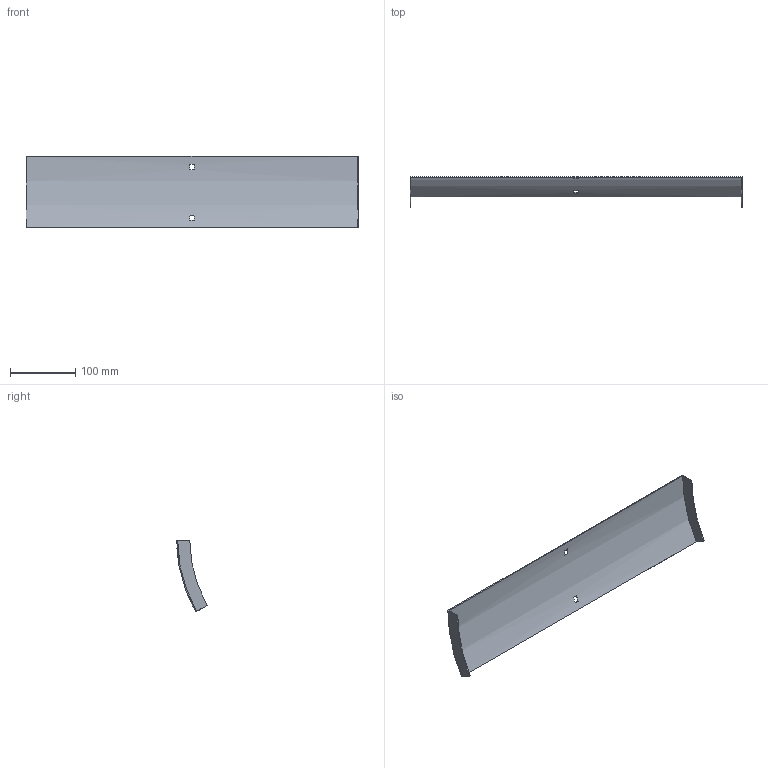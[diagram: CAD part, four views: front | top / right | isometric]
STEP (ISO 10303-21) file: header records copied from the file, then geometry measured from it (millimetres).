
FILE_DESCRIPTION (( 'STEP AP214' ), '1' );
FILE_NAME ('35N1J500.step', '2025-02-21T09:11:36', ( '' ), ( '' ), 'SwSTEP 2.0', 'SolidWorks 2023', '' );
FILE_SCHEMA (( 'AUTOMOTIVE_DESIGN' ));
Length unit declared in the file: millimetre
Products named in the file (1): 35N1J500
Bounding box: 507 x 46.66 x 109.5 mm (x, y, z)
Volume: 92782.1 mm3; surface area: 125748.6 mm2
Topology: 1 solids, 1 shells, 18 faces, 48 edges, 32 vertices
Faces by surface type: plane 14, cylinder 4
Entity records: 599 total; most frequent: DIRECTION 102, CARTESIAN_POINT 99, ORIENTED_EDGE 96, EDGE_CURVE 48, AXIS2_PLACEMENT_3D 35, VECTOR 32, LINE 32, VERTEX_POINT 32
